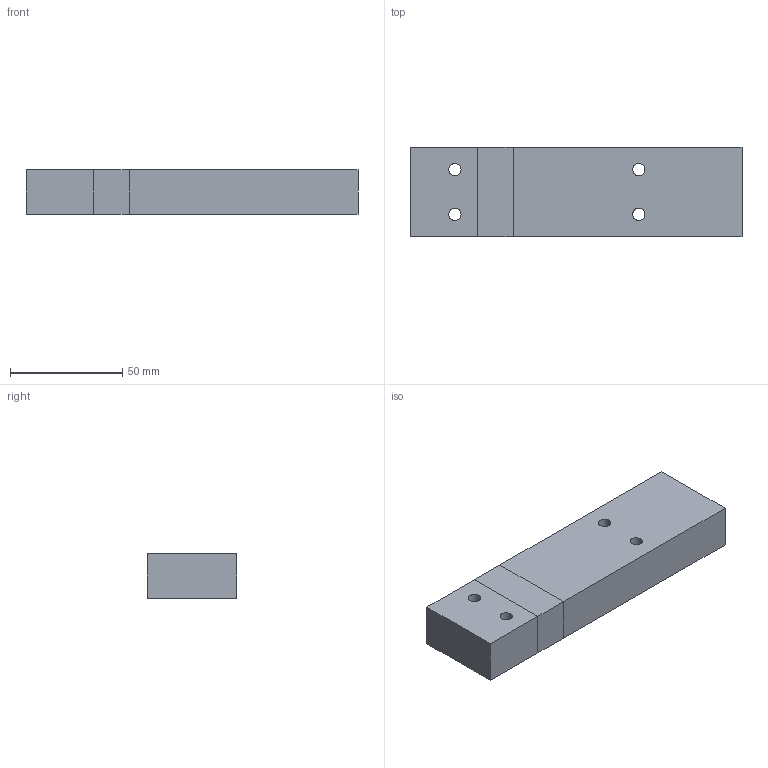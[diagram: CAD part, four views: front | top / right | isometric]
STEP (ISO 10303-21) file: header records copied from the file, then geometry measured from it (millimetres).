
FILE_DESCRIPTION(/* description */ (''),/* implementation_level */ '2;1');
FILE_NAME(/* name */ '5.y-cart#5.4#HFS5-2040-148-Z5-YA20-YB102',/* time_stamp */ '2014-12-01T20:13:20+01:00',/* author */ (''),/* organization */ (''),/* preprocessor_version */ 'ST-DEVELOPER v14',/* originating_system */ '',/* authorisation */ '');
FILE_SCHEMA (('AUTOMOTIVE_DESIGN'));
Length unit declared in the file: millimetre
Products named in the file (1): Document
Bounding box: 148 x 40 x 20 mm (x, y, z)
Volume: 115367.8 mm3; surface area: 20854.5 mm2
Topology: 1 solids, 1 shells, 34 faces, 76 edges, 48 vertices
Faces by surface type: bspline 20, plane 14
Entity records: 2458 total; most frequent: CARTESIAN_POINT 1424, B_SPLINE_CURVE_WITH_KNOTS 172, ORIENTED_EDGE 152, PCURVE 152, DEFINITIONAL_REPRESENTATION 152, SURFACE_CURVE 76, EDGE_CURVE 76, VERTEX_POINT 48
